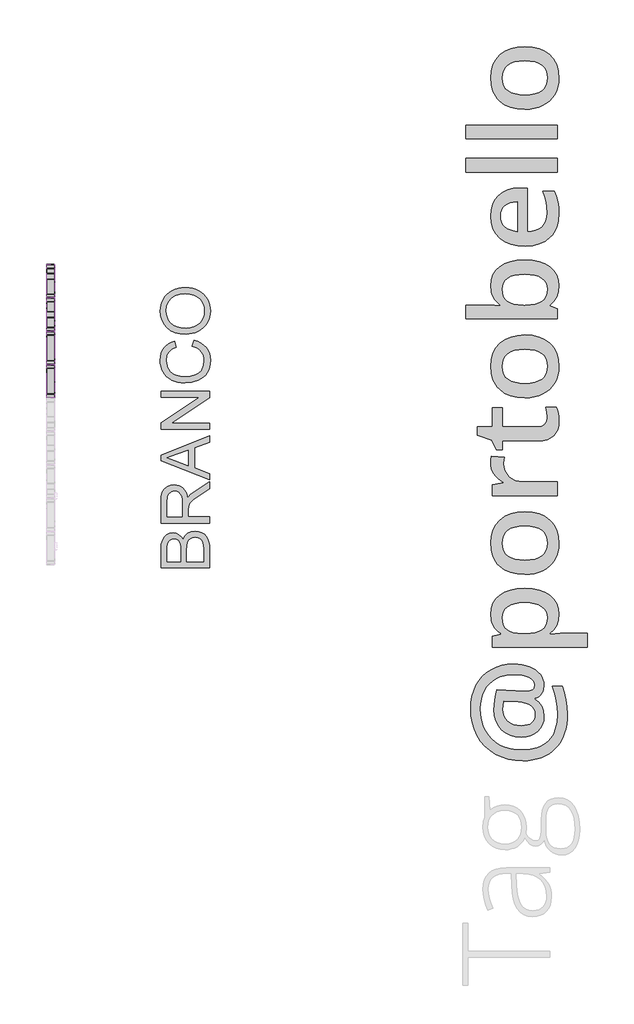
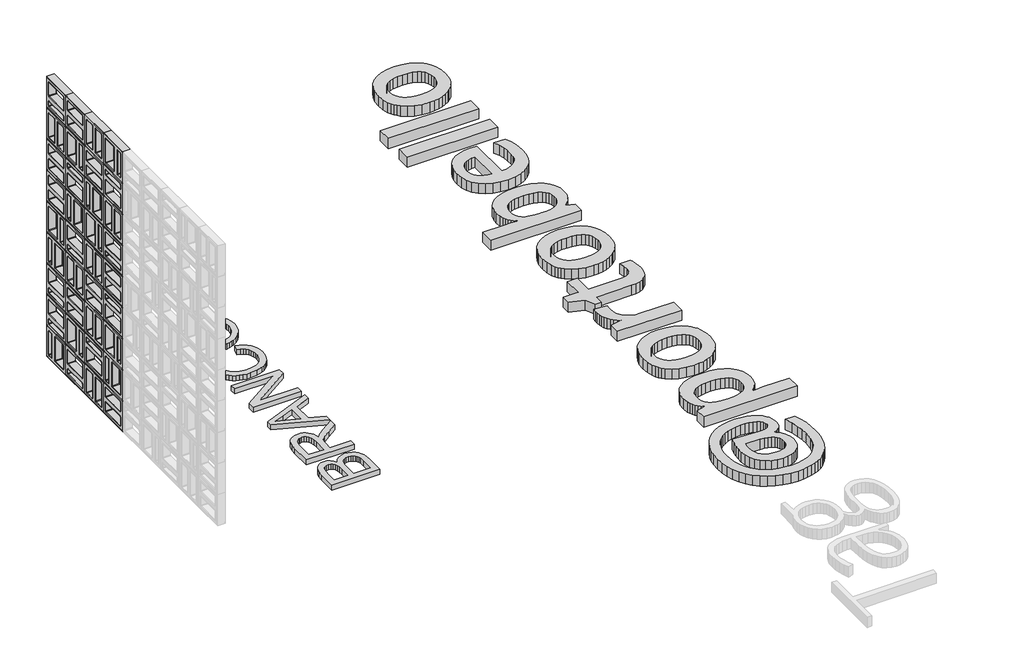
# One storey, part 6 of 8: 38 proxies.
"""IFC4 building model written with IfcOpenShell, lengths in millimetres."""

from ifc_helpers import new_model, si_unit, origin, origin_with_axes, place, context, project, spatial, polyline, outline, extrude, transform, mapped, element, save
from components import plate_08ec880d, generic_models_842a660e, generic_models_726e0611, generic_models_d4af8894, generic_models_55a6a26f, sim_branco_8a5b93f5, sim_branco_d7bac734

model = new_model("IFC4")

# Units and contexts
model_context = context("Model", 3, world=origin())
ifc_project = project(units=[si_unit("LENGTHUNIT", "METRE", prefix="MILLI")], contexts=[model_context])

# Site, building, storey
site = spatial("IfcSite", under=ifc_project)
building = spatial("IfcBuilding", under=site)
storey = spatial("IfcBuildingStorey", under=building, Name="PORTOBELLO - SHOWROOM", Elevation=0.0)

# Proxies
placement = place(None, origin())
plate_shape = plate_08ec880d(model_context)
element("IfcBuildingElementProxy", 1, Name="PORTOBELLO - ELEMENTO ASSIM BRANCO 30X30 (COBOGO) : ASSIM BRANCO", ObjectType="PORTOBELLO - ELEMENTO ASSIM BRANCO 30X30 (COBOGO) : ASSIM BRANCO", at=placement, inside=storey, context=model_context, shape_type="MappedRepresentation", body=[
    mapped(plate_shape, transform((152562.9354422, 5942.9733076, 0.0), x_axis=(0.0, 1.0, 0.0), y_axis=(-1.0, 0.0, 0.0), z_axis=(0.0, 0.0, 1.0))),
])
element("IfcBuildingElementProxy", 2, Name="PORTOBELLO - ELEMENTO ASSIM BRANCO 30X30 (COBOGO) : ASSIM BRANCO", ObjectType="PORTOBELLO - ELEMENTO ASSIM BRANCO 30X30 (COBOGO) : ASSIM BRANCO", at=placement, inside=storey, context=model_context, shape_type="MappedRepresentation", body=[
    mapped(plate_shape, transform((152562.9354422, 5018.9733076, 308.0), x_axis=(0.0, 1.0, 0.0), y_axis=(-1.0, 0.0, 0.0), z_axis=(0.0, 0.0, 1.0))),
])
element("IfcBuildingElementProxy", 3, Name="PORTOBELLO - ELEMENTO ASSIM BRANCO 30X30 (COBOGO) : ASSIM BRANCO", ObjectType="PORTOBELLO - ELEMENTO ASSIM BRANCO 30X30 (COBOGO) : ASSIM BRANCO", at=placement, inside=storey, context=model_context, shape_type="MappedRepresentation", body=[
    mapped(plate_shape, transform((152562.9354422, 5942.9733076, 924.0), x_axis=(0.0, 1.0, 0.0), y_axis=(-1.0, 0.0, 0.0), z_axis=(0.0, 0.0, 1.0))),
])
element("IfcBuildingElementProxy", 4, Name="PORTOBELLO - ELEMENTO ASSIM BRANCO 30X30 (COBOGO) : ASSIM BRANCO", ObjectType="PORTOBELLO - ELEMENTO ASSIM BRANCO 30X30 (COBOGO) : ASSIM BRANCO", at=placement, inside=storey, context=model_context, shape_type="MappedRepresentation", body=[
    mapped(plate_shape, transform((152562.9354422, 5634.9733076, 1540.0), x_axis=(0.0, 1.0, 0.0), y_axis=(-1.0, 0.0, 0.0), z_axis=(0.0, 0.0, 1.0))),
])
element("IfcBuildingElementProxy", 5, Name="PORTOBELLO - ELEMENTO ASSIM BRANCO 30X30 (COBOGO) : ASSIM BRANCO", ObjectType="PORTOBELLO - ELEMENTO ASSIM BRANCO 30X30 (COBOGO) : ASSIM BRANCO", at=placement, inside=storey, context=model_context, shape_type="MappedRepresentation", body=[
    mapped(plate_shape, transform((152562.9354422, 5326.9733076, 1848.0), x_axis=(0.0, 1.0, 0.0), y_axis=(-1.0, 0.0, 0.0), z_axis=(0.0, 0.0, 1.0))),
])
generic_models_shape = generic_models_842a660e(model_context)
element("IfcBuildingElementProxy", 6, Name="PORTOBELLO - ELEMENTO ASSIM BRANCO 30X30 (COBOGO) : ASSIM BRANCO", ObjectType="PORTOBELLO - ELEMENTO ASSIM BRANCO 30X30 (COBOGO) : ASSIM BRANCO", at=placement, inside=storey, context=model_context, shape_type="MappedRepresentation", body=[
    mapped(generic_models_shape, transform((152562.9354422, 5326.9733076, 1540.0), x_axis=(0.0, -1.0, 0.0), y_axis=(1.0, 0.0, 0.0), z_axis=(0.0, 0.0, 1.0))),
])
generic_models_2_shape = generic_models_726e0611(model_context)
element("IfcBuildingElementProxy", 7, Name="PORTOBELLO - ELEMENTO ASSIM BRANCO 30X30 (COBOGO) : ASSIM BRANCO", ObjectType="PORTOBELLO - ELEMENTO ASSIM BRANCO 30X30 (COBOGO) : ASSIM BRANCO", at=placement, inside=storey, context=model_context, shape_type="MappedRepresentation", body=[
    mapped(generic_models_2_shape, transform((152562.9354422, 5326.9733076, 308.0), x_axis=(0.0, 1.0, 0.0), y_axis=(-1.0, 0.0, 0.0), z_axis=(0.0, 0.0, 1.0))),
])
element("IfcBuildingElementProxy", 8, Name="PORTOBELLO - ELEMENTO ASSIM BRANCO 30X30 (COBOGO) : ASSIM BRANCO", ObjectType="PORTOBELLO - ELEMENTO ASSIM BRANCO 30X30 (COBOGO) : ASSIM BRANCO", at=placement, inside=storey, context=model_context, shape_type="MappedRepresentation", body=[
    mapped(generic_models_2_shape, transform((152562.9354422, 5018.9733076, 924.0), x_axis=(0.0, 1.0, 0.0), y_axis=(-1.0, 0.0, 0.0), z_axis=(0.0, 0.0, 1.0))),
])
element("IfcBuildingElementProxy", 9, Name="PORTOBELLO - ELEMENTO ASSIM BRANCO 30X30 (COBOGO) : ASSIM BRANCO", ObjectType="PORTOBELLO - ELEMENTO ASSIM BRANCO 30X30 (COBOGO) : ASSIM BRANCO", at=placement, inside=storey, context=model_context, shape_type="MappedRepresentation", body=[
    mapped(generic_models_2_shape, transform((152562.9354422, 5634.9733076, 1848.0), x_axis=(0.0, 1.0, 0.0), y_axis=(-1.0, 0.0, 0.0), z_axis=(0.0, 0.0, 1.0))),
])
element("IfcBuildingElementProxy", 10, Name="PORTOBELLO - ELEMENTO ASSIM BRANCO 30X30 (COBOGO) : ASSIM BRANCO", ObjectType="PORTOBELLO - ELEMENTO ASSIM BRANCO 30X30 (COBOGO) : ASSIM BRANCO", at=placement, inside=storey, context=model_context, shape_type="MappedRepresentation", body=[
    mapped(generic_models_2_shape, transform((152562.9354422, 5018.9733076, 2156.0), x_axis=(0.0, 1.0, 0.0), y_axis=(-1.0, 0.0, 0.0), z_axis=(0.0, 0.0, 1.0))),
])
generic_models_3_shape = generic_models_d4af8894(model_context)
element("IfcBuildingElementProxy", 11, Name="PORTOBELLO - ELEMENTO ASSIM BRANCO 30X30 (COBOGO) : ASSIM BRANCO", ObjectType="PORTOBELLO - ELEMENTO ASSIM BRANCO 30X30 (COBOGO) : ASSIM BRANCO", at=placement, inside=storey, context=model_context, shape_type="MappedRepresentation", body=[
    mapped(generic_models_3_shape, transform((152562.9354422, 5634.9733076, 0.0), x_axis=(0.0, 1.0, 0.0), y_axis=(-1.0, 0.0, 0.0), z_axis=(0.0, 0.0, 1.0))),
])
element("IfcBuildingElementProxy", 12, Name="PORTOBELLO - ELEMENTO ASSIM BRANCO 30X30 (COBOGO) : ASSIM BRANCO", ObjectType="PORTOBELLO - ELEMENTO ASSIM BRANCO 30X30 (COBOGO) : ASSIM BRANCO", at=placement, inside=storey, context=model_context, shape_type="MappedRepresentation", body=[
    mapped(generic_models_3_shape, transform((152562.9354422, 5942.9733076, 308.0), x_axis=(0.0, 1.0, 0.0), y_axis=(-1.0, 0.0, 0.0), z_axis=(0.0, 0.0, 1.0))),
])
element("IfcBuildingElementProxy", 13, Name="PORTOBELLO - ELEMENTO ASSIM BRANCO 30X30 (COBOGO) : ASSIM BRANCO", ObjectType="PORTOBELLO - ELEMENTO ASSIM BRANCO 30X30 (COBOGO) : ASSIM BRANCO", at=placement, inside=storey, context=model_context, shape_type="MappedRepresentation", body=[
    mapped(generic_models_3_shape, transform((152562.9354422, 5942.9733076, 616.0), x_axis=(0.0, 1.0, 0.0), y_axis=(-1.0, 0.0, 0.0), z_axis=(0.0, 0.0, 1.0))),
])
element("IfcBuildingElementProxy", 14, Name="PORTOBELLO - ELEMENTO ASSIM BRANCO 30X30 (COBOGO) : ASSIM BRANCO", ObjectType="PORTOBELLO - ELEMENTO ASSIM BRANCO 30X30 (COBOGO) : ASSIM BRANCO", at=placement, inside=storey, context=model_context, shape_type="MappedRepresentation", body=[
    mapped(generic_models_3_shape, transform((152562.9354422, 5634.9733076, 1232.0), x_axis=(0.0, 1.0, 0.0), y_axis=(-1.0, 0.0, 0.0), z_axis=(0.0, 0.0, 1.0))),
])
element("IfcBuildingElementProxy", 15, Name="PORTOBELLO - ELEMENTO ASSIM BRANCO 30X30 (COBOGO) : ASSIM BRANCO", ObjectType="PORTOBELLO - ELEMENTO ASSIM BRANCO 30X30 (COBOGO) : ASSIM BRANCO", at=placement, inside=storey, context=model_context, shape_type="MappedRepresentation", body=[
    mapped(generic_models_3_shape, transform((152562.9354422, 5018.9733076, 1540.0), x_axis=(0.0, 1.0, 0.0), y_axis=(-1.0, 0.0, 0.0), z_axis=(0.0, 0.0, 1.0))),
])
element("IfcBuildingElementProxy", 16, Name="PORTOBELLO - ELEMENTO ASSIM BRANCO 30X30 (COBOGO) : ASSIM BRANCO", ObjectType="PORTOBELLO - ELEMENTO ASSIM BRANCO 30X30 (COBOGO) : ASSIM BRANCO", at=placement, inside=storey, context=model_context, shape_type="MappedRepresentation", body=[
    mapped(generic_models_3_shape, transform((152562.9354422, 5942.9733076, 2464.0), x_axis=(0.0, 1.0, 0.0), y_axis=(-1.0, 0.0, 0.0), z_axis=(0.0, 0.0, 1.0))),
])
generic_models_4_shape = generic_models_55a6a26f(model_context)
element("IfcBuildingElementProxy", 17, Name="PORTOBELLO - ELEMENTO ASSIM BRANCO 30X30 (COBOGO) : ASSIM BRANCO", ObjectType="PORTOBELLO - ELEMENTO ASSIM BRANCO 30X30 (COBOGO) : ASSIM BRANCO", at=placement, inside=storey, context=model_context, shape_type="MappedRepresentation", body=[
    mapped(generic_models_4_shape, transform((152562.9354422, 5634.9733076, 308.0), x_axis=(0.0, 1.0, 0.0), y_axis=(-1.0, 0.0, 0.0), z_axis=(0.0, 0.0, 1.0))),
])
element("IfcBuildingElementProxy", 18, Name="PORTOBELLO - ELEMENTO ASSIM BRANCO 30X30 (COBOGO) : ASSIM BRANCO", ObjectType="PORTOBELLO - ELEMENTO ASSIM BRANCO 30X30 (COBOGO) : ASSIM BRANCO", at=placement, inside=storey, context=model_context, shape_type="MappedRepresentation", body=[
    mapped(generic_models_4_shape, transform((152562.9354422, 5018.9733076, 616.0), x_axis=(0.0, 1.0, 0.0), y_axis=(-1.0, 0.0, 0.0), z_axis=(0.0, 0.0, 1.0))),
])
element("IfcBuildingElementProxy", 19, Name="PORTOBELLO - ELEMENTO ASSIM BRANCO 30X30 (COBOGO) : ASSIM BRANCO", ObjectType="PORTOBELLO - ELEMENTO ASSIM BRANCO 30X30 (COBOGO) : ASSIM BRANCO", at=placement, inside=storey, context=model_context, shape_type="MappedRepresentation", body=[
    mapped(generic_models_4_shape, transform((152562.9354422, 5942.9733076, 1232.0), x_axis=(0.0, 1.0, 0.0), y_axis=(-1.0, 0.0, 0.0), z_axis=(0.0, 0.0, 1.0))),
])
element("IfcBuildingElementProxy", 20, Name="PORTOBELLO - ELEMENTO ASSIM BRANCO 30X30 (COBOGO) : ASSIM BRANCO", ObjectType="PORTOBELLO - ELEMENTO ASSIM BRANCO 30X30 (COBOGO) : ASSIM BRANCO", at=placement, inside=storey, context=model_context, shape_type="MappedRepresentation", body=[
    mapped(generic_models_4_shape, transform((152562.9354422, 5634.9733076, 2156.0), x_axis=(0.0, 1.0, 0.0), y_axis=(-1.0, 0.0, 0.0), z_axis=(0.0, 0.0, 1.0))),
])
element("IfcBuildingElementProxy", 21, Name="PORTOBELLO - ELEMENTO ASSIM BRANCO 30X30 (COBOGO) : ASSIM BRANCO", ObjectType="PORTOBELLO - ELEMENTO ASSIM BRANCO 30X30 (COBOGO) : ASSIM BRANCO", at=placement, inside=storey, context=model_context, shape_type="MappedRepresentation", body=[
    mapped(generic_models_4_shape, transform((152562.9354422, 5018.9733076, 2464.0), x_axis=(0.0, 1.0, 0.0), y_axis=(-1.0, 0.0, 0.0), z_axis=(0.0, 0.0, 1.0))),
])
element("IfcBuildingElementProxy", 22, Name="450mm Arial", ObjectType="450mm Arial", at=placement, inside=storey, context=model_context, shape_type="SweptSolid", body=[
    extrude(outline(polyline([(154031.8262371, 3297.1467067), (153582.1700943, 3297.1467067), (153582.1700943, 3468.7318022), (153585.4771967, 3515.9231924), (153595.3985038, 3552.7678806), (153612.1810191, 3581.0086137), (153636.0717462, 3602.3881386), (153664.1752551, 3615.8498291), (153693.596116, 3620.3370593), (153720.6704437, 3616.5633948), (153746.1255263, 3605.2424012), (153768.3970082, 3586.2917441), (153785.920534, 3559.6290889), (153802.5521028, 3591.4788175), (153827.8562388, 3615.0127617), (153860.1588071, 3629.5448008), (153897.7856731, 3634.3888138), (153929.1413947, 3631.0817114), (153958.2191952, 3621.1604043), (153982.9469897, 3606.3539169), (154001.2526932, 3588.3912738), (154014.5085476, 3566.3942402), (154024.0867942, 3539.4845815), (154029.8913764, 3506.7840631), (154031.8262371, 3467.4144502), (154031.8262371, 3297.1467067)]), holes=[polyline([(153764.8429023, 3353.3537245), (153764.8429023, 3455.9973997), (153763.6353297, 3491.8952412), (153760.0126117, 3515.9369148), (153751.6831049, 3536.9184896), (153739.2094284, 3551.9994253), (153722.7836959, 3561.0973874), (153702.5980212, 3564.1300415), (153683.0024105, 3561.3032237), (153665.9317244, 3552.8227703), (153652.607258, 3539.072909), (153644.2503064, 3520.4378674), (153639.8454107, 3491.8403515), (153638.3771122, 3448.2030672), (153638.3771122, 3353.3537245), (153764.8429023, 3353.3537245)]), polyline([(153975.6192193, 3353.3537245), (153975.6192193, 3468.6220229), (153973.4236327, 3510.3381689), (153968.5521748, 3529.7004986), (153961.1832372, 3545.6322241), (153950.6306989, 3558.5861852), (153936.2084392, 3569.0152217), (153918.5614116, 3575.8901524), (153898.3345697, 3578.1817959), (153874.8417927, 3575.4922023), (153854.6423957, 3567.4234214), (153838.8478944, 3553.3304997), (153828.5698044, 3532.5684836), (153822.9298912, 3503.1613451), (153821.0499202, 3463.1330563), (153821.0499202, 3353.3537245), (153975.6192193, 3353.3537245)])]), origin_with_axes(), (0.0, 0.0, 1.0), 50.0),
    extrude(outline(polyline([(154031.8262371, 3711.6734633), (153582.1700943, 3711.6734633), (153582.1700943, 3905.4339839), (153585.2027484, 3957.5105544), (153594.3007105, 3995.3981462), (153611.0969482, 4023.0899827), (153637.2244292, 4044.5792868), (153669.6230545, 4058.3703154), (153705.2327252, 4062.9673249), (153728.3275521, 4061.0633396), (153749.5286856, 4055.3513838), (153768.8361255, 4045.8314574), (153786.249872, 4032.5035604), (153801.2141672, 4015.1961626), (153813.1732531, 3993.7377338), (153822.1271299, 3968.1282741), (153828.0757974, 3938.3677834), (153852.1174711, 3970.3135689), (153909.9711789, 4015.8719916), (154031.8262371, 4090.8512752), (154031.8262371, 4025.5325728), (153938.6235845, 3967.020189), (153876.9276, 3924.7551463), (153858.9375121, 3909.0429794), (153847.7811875, 3895.059837), (153837.0777026, 3868.3285697), (153835.1016747, 3835.7241082), (153835.1016747, 3767.8804812), (154031.8262371, 3767.8804812), (154031.8262371, 3711.6734633)]), holes=[polyline([(153778.8946568, 3767.8804812), (153778.8946568, 3893.6875954), (153776.9049064, 3929.8187179), (153770.9356553, 3957.8536148), (153760.5889532, 3978.9586913), (153745.4668503, 3994.3003529), (153727.1748691, 4003.6453185), (153707.3185325, 4006.7603071), (153692.9443013, 4005.2748555), (153679.9011444, 4000.8185007), (153657.8080539, 3982.9930817), (153649.3070169, 3969.3838752), (153643.2348476, 3952.3234809), (153638.3771122, 3907.8491292), (153638.3771122, 3767.8804812), (153778.8946568, 3767.8804812)])]), origin_with_axes(), (0.0, 0.0, 1.0), 50.0),
    extrude(outline(polyline([(154031.8262371, 4108.9648649), (153582.1700943, 4288.4540723), (153582.1700943, 4336.317861), (154031.8262371, 4515.8070684), (154031.8262371, 4456.4164499), (153891.3086925, 4404.9299433), (153891.3086925, 4219.7322106), (154031.8262371, 4168.3554834), (154031.8262371, 4108.9648649)]), holes=[polyline([(153835.1016747, 4240.370725), (153835.1016747, 4384.4012083), (153724.5538876, 4343.8926348), (153638.3771122, 4312.3859666), (153714.8933064, 4284.392237), (153835.1016747, 4240.370725)])]), origin_with_axes(), (0.0, 0.0, 1.0), 50.0),
    extrude(outline(polyline([(154031.8262371, 4575.8563628), (153582.1700943, 4575.8563628), (153582.1700943, 4636.0154366), (153938.4040258, 4870.9432065), (153582.1700943, 4870.9432065), (153582.1700943, 4927.1502244), (154031.8262371, 4927.1502244), (154031.8262371, 4866.9911506), (153675.4825263, 4632.0633807), (154031.8262371, 4632.0633807), (154031.8262371, 4575.8563628)])), origin_with_axes(), (0.0, 0.0, 1.0), 50.0),
    extrude(outline(polyline([(153871.9875301, 5341.6769811), (153886.4784019, 5397.8839989), (153921.4328273, 5386.7619804), (153951.9754957, 5371.9486318), (153978.1064073, 5353.4439532), (153999.8255619, 5331.2479445), (154016.8996786, 5305.8614741), (154029.0954763, 5277.78541), (154036.4129548, 5247.0197523), (154038.8521144, 5213.5645009), (154037.0064494, 5179.2893352), (154031.4694543, 5148.3693003), (154022.2411292, 5120.8043962), (154009.3214741, 5096.5946229), (153992.9026028, 5075.4072119), (153973.1766292, 5056.9093945), (153950.1435531, 5041.1011707), (153923.8033747, 5027.9825406), (153865.757553, 5010.3217906), (153803.5950064, 5004.4348739), (153769.6937766, 5006.0987169), (153738.0293006, 5011.0902459), (153708.6015784, 5019.4094609), (153681.4106102, 5031.0563619), (153656.905805, 5045.7702229), (153635.536572, 5063.2903182), (153617.3029111, 5083.6166476), (153602.2048224, 5106.7492111), (153590.3658076, 5131.9024005), (153581.9093684, 5158.2906074), (153576.8355049, 5185.9138317), (153575.1442171, 5214.7720736), (153577.3329425, 5246.9202647), (153583.8991188, 5276.3994459), (153594.8427459, 5303.2096171), (153610.1638239, 5327.3507783), (153629.4575415, 5348.4249794), (153652.3190873, 5366.0342703), (153678.7484614, 5380.1786511), (153708.7456638, 5390.8581217), (153722.1387423, 5334.6511038), (153681.1498843, 5315.1652724), (153665.4823153, 5302.7464855), (153653.032653, 5288.5437845), (153643.5470326, 5272.4748348), (153636.7715894, 5254.457302), (153631.3512349, 5212.5764869), (153632.8538395, 5187.3615467), (153637.3616534, 5164.3010258), (153644.8746764, 5143.3949243), (153655.3929086, 5124.6432422), (153668.4429267, 5108.2826912), (153683.5513072, 5094.5499829), (153700.7180502, 5083.4451174), (153719.9431557, 5074.9680946), (153761.0829602, 5064.2234425), (153803.4852271, 5060.6418918), (153855.410851, 5064.8821185), (153900.3105977, 5077.6027985), (153919.6969416, 5087.2633797), (153936.4691651, 5099.2842166), (153950.6272683, 5113.665309), (153962.1712511, 5130.4066571), (153977.5266352, 5167.7179075), (153982.6450965, 5207.965755), (153980.9023496, 5232.4019481), (153975.674109, 5254.8826969), (153966.9603745, 5275.4080013), (153954.7611463, 5293.9778614), (153939.1313139, 5310.1531598), (153920.1257671, 5323.4947792), (153897.7445058, 5334.0027196), (153871.9875301, 5341.6769811)])), origin_with_axes(), (0.0, 0.0, 1.0), 50.0),
    extrude(outline(polyline([(153812.9262496, 5454.0910168), (153760.1841419, 5457.8372365), (153713.4936199, 5469.0758955), (153672.8546835, 5487.806994), (153638.2673328, 5514.0305319), (153610.6509697, 5546.1752925), (153590.924996, 5582.6700591), (153579.0894118, 5623.5148317), (153575.1442171, 5668.7096103), (153576.9967433, 5698.9606774), (153582.554322, 5727.6885563), (153591.8169531, 5754.8932469), (153604.7846367, 5780.5747494), (153621.0662838, 5804.0126367), (153640.2708056, 5824.4864821), (153662.3982022, 5841.9962855), (153687.4484735, 5856.5420469), (153714.8521391, 5867.9728198), (153744.039719, 5876.1376576), (153775.0112129, 5881.0365603), (153807.7666211, 5882.6695279), (153840.9542853, 5880.9507952), (153872.3443129, 5875.7945972), (153901.9367041, 5867.2009339), (153929.7314586, 5855.1698053), (153954.9944273, 5839.9859515), (153976.9914609, 5821.9341126), (153995.7225594, 5801.0142887), (154011.1877228, 5777.2264797), (154023.2908941, 5751.5072407), (154031.9360165, 5724.7931264), (154037.1230899, 5697.084137), (154038.8521144, 5668.3802723), (154036.9412679, 5637.6008922), (154031.2087284, 5608.4956469), (154021.6544959, 5581.0645363), (154008.2785705, 5555.3075606), (153991.5989733, 5531.8971181), (153972.1337255, 5511.5056073), (153949.8828272, 5494.133028), (153924.8462784, 5479.7793804), (153898.029246, 5468.5407213), (153870.4368971, 5460.5131077), (153842.0692316, 5455.6965395), (153812.9262496, 5454.0910168)]), holes=[polyline([(153813.4751463, 5510.2980346), (153850.7383682, 5513.1076994), (153883.8162531, 5521.5366937), (153912.708801, 5535.5850176), (153937.4160118, 5555.252671), (153957.2037364, 5579.160551), (153971.3378253, 5605.929555), (153979.8182787, 5635.5596827), (153982.6450965, 5668.0509343), (153979.7908339, 5701.0979438), (153971.228046, 5731.0779932), (153956.9567329, 5757.9910825), (153936.9768945, 5781.8372117), (153911.7482318, 5801.3607797), (153881.7304458, 5815.3061854), (153846.9235364, 5823.6734289), (153807.3275037, 5826.46251), (153757.5700216, 5821.6871091), (153714.5639684, 5807.3609063), (153679.393415, 5783.8544069), (153653.1424323, 5751.5381161), (153636.7990343, 5712.5527309), (153631.3512349, 5669.0389483), (153633.9756471, 5637.6763655), (153641.8488835, 5608.5779814), (153654.9709443, 5581.7437959), (153673.3418293, 5557.1738093), (153697.8466345, 5536.6656579), (153729.3704558, 5522.0169783), (153767.913293, 5513.2277705), (153813.4751463, 5510.2980346)])]), origin_with_axes(), (0.0, 0.0, 1.0), 50.0),
])
element("IfcBuildingElementProxy", 23, Name="80mm OpenSans Bold", ObjectType="80mm OpenSans Bold", at=placement, inside=storey, context=model_context, shape_type="SweptSolid", body=[
    extrude(outline(polyline([(156840.3690032, 2410.0949726), (156878.4746179, 2408.5476127), (156914.9126894, 2403.9055331), (156949.6832178, 2396.1687338), (156982.786203, 2385.3372147), (157013.2676901, 2371.6964112), (157040.1737244, 2355.5317585), (157063.5043057, 2336.8432568), (157083.2594342, 2315.630906), (157098.9809109, 2292.2853017), (157110.2105372, 2267.1970397), (157116.9483129, 2240.36612), (157119.1942381, 2211.7925426), (157113.4855318, 2171.1705903), (157106.3496489, 2153.0229133), (157096.3594129, 2136.3174359), (157083.9354652, 2121.6400515), (157069.4984474, 2109.5766537), (157053.0483594, 2100.1272424), (157034.5852013, 2093.2918178), (157034.5852013, 2086.5615535), (157071.6016549, 2056.3955474), (157098.0419789, 2019.7396437), (157113.9061733, 1977.3750337), (157119.1942381, 1930.0829087), (157115.6413196, 1887.4178404), (157104.982564, 1849.5601038), (157087.2179713, 1816.5096988), (157062.3475415, 1788.2666254), (157031.4078556, 1765.6571438), (156995.4354943, 1749.5075141), (156954.4304578, 1739.8177363), (156908.3927459, 1736.5878103), (156855.2491969, 1740.8693401), (156807.348644, 1753.7139293), (156764.6910872, 1775.121578), (156727.2765265, 1805.0922861), (156696.8325966, 1842.2739918), (156675.0869324, 1885.3146328), (156662.0395339, 1934.2142093), (156657.690401, 1988.9727212), (156659.5231962, 2033.2903098), (156665.0215818, 2082.1147717), (156673.7649162, 2130.3383172), (156685.3325579, 2172.8531563), (156936.515636, 2160.5944607), (156949.2550648, 2160.5944607), (156987.1128014, 2164.1999594), (157014.1540419, 2175.0164556), (157023.618476, 2183.1288277), (157030.3787862, 2193.0439492), (157035.7870343, 2218.2824403), (157032.3242532, 2239.0365924), (157021.93591, 2257.5523306), (157004.6220046, 2273.8296551), (156980.3825371, 2287.8685658), (156950.7798903, 2299.1733066), (156917.3764469, 2307.2481214), (156880.1722069, 2312.0930103), (156839.1671703, 2313.7079733), (156794.0759019, 2311.2892846), (156751.8239636, 2304.0332184), (156712.4113557, 2291.9397747), (156675.838078, 2275.0089536), (156642.6975355, 2253.6163278), (156613.5831333, 2228.1374702), (156588.4948713, 2198.5723806), (156567.4327496, 2164.9210591), (156550.7648294, 2127.9196285), (156538.8591721, 2088.3042112), (156531.7157778, 2046.0748073), (156529.3346463, 2001.2314169), (156532.3242057, 1944.2570256), (156541.2928838, 1891.1134766), (156556.2406806, 1841.8007701), (156577.1675961, 1796.3189059), (156603.6454774, 1755.3288922), (156635.2461715, 1719.4917372), (156671.9696783, 1688.8074407), (156713.8159979, 1663.2760029), (156760.0039389, 1643.1903704), (156809.7523099, 1628.84349), (156863.0611108, 1620.2353618), (156919.9303418, 1617.3659857), (156994.1059667, 1622.7216536), (157059.1927302, 1638.7886573), (157088.3277889, 1650.8389101), (157115.1906323, 1665.5669968), (157139.7812603, 1682.9729175), (157162.099673, 1703.0566722), (157181.958084, 1725.6417415), (157199.1687068, 1750.5516064), (157213.7315415, 1777.7862669), (157225.6465881, 1807.3457228), (157241.5333168, 1873.4390214), (157246.8288931, 1948.8315021), (157243.7341734, 2010.545622), (157234.4500141, 2073.581758), (157218.9764154, 2137.9399103), (157197.3133772, 2203.6200788), (157287.4508454, 2203.6200788), (157308.0622798, 2144.3997622), (157322.784733, 2082.5955049), (157331.6182048, 2018.2073068), (157334.5626955, 1951.2351679), (157332.8669843, 1901.6201253), (157327.779851, 1854.8106113), (157319.3012954, 1810.8066261), (157307.4313175, 1769.6081695), (157292.1699175, 1731.2152416), (157273.5170951, 1695.6278425), (157251.4728506, 1662.845972), (157226.0371838, 1632.8696303), (157197.5668889, 1606.0819014), (157166.41876, 1582.8658698), (157132.5927972, 1563.2215353), (157096.0890005, 1547.148898), (157056.9073698, 1534.6479579), (157015.0479051, 1525.718715), (156970.5106065, 1520.3611692), (156923.295474, 1518.5753206), (156854.227639, 1522.4362088), (156789.0807838, 1534.0188735), (156727.8549086, 1553.3233146), (156670.5500132, 1580.3495321), (156618.4505565, 1614.2261973), (156572.8409976, 1654.0819811), (156533.7213365, 1699.9168837), (156501.091573, 1751.730905), (156475.3798602, 1808.3522579), (156457.014351, 1868.6091554), (156445.9950455, 1932.5015974), (156442.3219437, 2000.029584), (156445.3866176, 2058.250877), (156454.5806394, 2113.2121982), (156469.904009, 2164.9135477), (156491.3567264, 2213.3549254), (156518.4730814, 2257.5373077), (156550.7873638, 2296.4616711), (156588.2995734, 2330.1280154), (156631.0097104, 2358.5363408), (156678.0764918, 2381.0932422), (156728.6586343, 2397.2053147), (156782.7561381, 2406.8725581), (156840.3690032, 2410.0949726)]), holes=[polyline([(156910.3156785, 1841.8683732), (156939.7230275, 1843.457046), (156965.2093967, 1848.2230647), (156986.7747859, 1856.1664291), (157004.4191953, 1867.2871392), (157018.1426249, 1881.5851951), (157027.9450745, 1899.0605967), (157033.8265443, 1919.7133441), (157035.7870343, 1943.5434373), (157033.3232768, 1968.8269971), (157025.9320044, 1991.0759288), (157013.6132171, 2010.2902325), (156996.3669148, 2026.469908), (156974.1930977, 2039.6149555), (156947.0917656, 2049.7253748), (156915.0629185, 2056.8011661), (156878.1065566, 2060.8423292), (156749.5104353, 2067.5725935), (156742.6599877, 2031.2772396), (156740.3765052, 1992.57822), (156743.2383698, 1958.9644558), (156751.8239636, 1929.2716715), (156766.1332867, 1903.499867), (156786.166339, 1881.6490425), (156811.0968604, 1864.2449996), (156840.0985908, 1851.8135405), (156873.1715302, 1844.354665), (156910.3156785, 1841.8683732)])]), origin_with_axes(), (0.0, 0.0, 1.0), 100.0),
    extrude(outline(polyline([(157257.6453893, 2868.7144107), (157252.4474619, 2815.1577317), (157236.85368, 2767.9407213), (157210.8640433, 2727.0633795), (157174.478552, 2692.5257063), (157174.478552, 2684.8339756), (157268.4618855, 2692.5257063), (157519.1642303, 2692.5257063), (157519.1642303, 2563.6892184), (156642.3069398, 2563.6892184), (156642.3069398, 2668.0083149), (156719.4646126, 2686.0358086), (156719.4646126, 2692.5257063), (156697.7752843, 2708.3560991), (156678.9778664, 2726.0418215), (156663.072359, 2745.5828735), (156650.0587621, 2766.979255), (156639.9370755, 2790.230966), (156632.7072994, 2815.3380067), (156626.9234786, 2871.1180766), (156632.0838486, 2923.92361), (156647.5649588, 2970.5697498), (156673.366809, 3011.0564959), (156709.4893994, 3045.3838484), (156754.9261948, 3072.7255471), (156808.6706602, 3092.2553318), (156870.7227956, 3103.9732027), (156941.082601, 3107.8791597), (157011.6151699, 3103.9055996), (157073.9452291, 3091.9849194), (157128.0727788, 3072.1171192), (157173.9978188, 3044.3021988), (157210.5936309, 3009.4866017), (157236.7334967, 2968.6167713), (157252.4174161, 2921.6927077), (157257.6453893, 2868.7144107)]), holes=[polyline([(156734.6077072, 2837.2263885), (156737.4019687, 2802.140379), (156745.7847533, 2772.1170907), (156759.7560608, 2747.1565234), (156779.3158914, 2727.2586773), (156805.0050699, 2712.0630025), (156837.364421, 2701.208949), (156876.3939447, 2694.696517), (156922.093641, 2692.5257063), (156941.082601, 2692.5257063), (156992.4309121, 2694.6739826), (157036.1475841, 2701.1188116), (157072.2326172, 2711.8601932), (157100.6860113, 2726.8981275), (157122.2438892, 2746.8185079), (157137.6423733, 2772.2072281), (157146.8814638, 2803.0642881), (157149.9611606, 2839.3896878), (157146.5509597, 2870.3143508), (157136.3203571, 2897.4682631), (157119.2693527, 2920.8514246), (157095.3979465, 2940.4638354), (157065.2319405, 2955.9749914), (157029.2971365, 2967.0543885), (156987.5935346, 2973.7020268), (156940.1211347, 2975.9179062), (156892.4909942, 2973.7170497), (156851.0352703, 2967.1144802), (156815.753963, 2956.1101976), (156786.6470722, 2940.704202), (156763.87985, 2921.0316996), (156747.6175485, 2897.2278965), (156737.8601675, 2869.2927928), (156734.6077072, 2837.2263885)])]), origin_with_axes(), (0.0, 0.0, 1.0), 100.0),
    extrude(outline(polyline([(156941.082601, 3815.9991097), (157011.6151699, 3811.1917781), (157073.9452291, 3796.7697832), (157128.0727788, 3772.733125), (157173.9978188, 3739.0818036), (157193.6027181, 3718.9097893), (157210.5936309, 3696.8523997), (157224.9705571, 3672.9096347), (157236.7334967, 3647.0814944), (157252.4174161, 3589.7690875), (157257.6453893, 3524.9151791), (157255.234212, 3483.2641574), (157248.0006802, 3444.1219618), (157235.9447938, 3407.4885925), (157219.0665529, 3373.3640493), (157197.68895, 3342.3868061), (157172.1349778, 3315.1953365), (157142.4046362, 3291.7896406), (157108.4979253, 3272.1697183), (157071.0382958, 3256.6585624), (157030.6491986, 3245.5791652), (156987.3306336, 3238.931527), (156941.082601, 3236.7156475), (156871.1133913, 3241.4854219), (156809.2715767, 3255.794745), (156755.5571571, 3279.6436167), (156709.9701326, 3313.0320373), (156690.506073, 3333.0895018), (156673.6372214, 3355.1037005), (156659.3635778, 3379.0746335), (156647.6851421, 3405.0023006), (156632.1138944, 3462.7278375), (156626.9234786, 3528.2803113), (156632.2415892, 3591.1737297), (156648.1959211, 3647.1716318), (156674.7864742, 3696.2740176), (156712.0132485, 3738.4808871), (156758.2387468, 3772.3951095), (156811.8254716, 3796.6195541), (156872.773423, 3811.1542208), (156941.082601, 3815.9991097)]), holes=[polyline([(156941.082601, 3369.3980007), (156990.0385134, 3371.8617582), (157032.4669708, 3379.2530306), (157068.3679733, 3391.5718179), (157097.7415207, 3408.8181201), (157120.5876132, 3430.9919373), (157136.9062506, 3458.0932694), (157146.6974331, 3490.1221164), (157149.9611606, 3527.0784784), (157146.6974331, 3563.6968248), (157136.9062506, 3595.4327251), (157120.5876132, 3622.2861791), (157097.7415207, 3644.257187), (157068.3679733, 3661.3457487), (157032.4669708, 3673.5518642), (156990.0385134, 3680.8755335), (156941.082601, 3683.3167566), (156892.6900478, 3680.8605106), (156850.749835, 3673.4917725), (156815.2619626, 3661.2105425), (156786.2264307, 3644.0168204), (156763.6432392, 3621.9106064), (156747.5123881, 3594.8919003), (156737.8338774, 3562.9607022), (156734.6077072, 3526.117012), (156737.9427935, 3487.7259621), (156747.9480525, 3454.9985496), (156764.6234841, 3427.9347748), (156787.9690884, 3406.5346376), (156817.5492009, 3390.2873589), (156852.9281571, 3378.6821599), (156894.1059572, 3371.7190405), (156941.082601, 3369.3980007)])]), origin_with_axes(), (0.0, 0.0, 1.0), 100.0),
    extrude(outline(polyline([(156626.9234786, 4266.6864507), (156628.3055864, 4301.3593301), (156632.4519099, 4329.4221285), (156752.6352009, 4317.1634329), (156747.5875026, 4289.7616425), (156745.9049366, 4261.3983859), (156749.044725, 4225.3433986), (156758.4640905, 4192.89391), (156774.1630328, 4164.0499202), (156796.1415522, 4138.8114291), (156823.1377239, 4118.3051551), (156853.8896235, 4103.6578165), (156888.3972509, 4094.8694134), (156926.6606061, 4091.9399457), (157242.261928, 4091.9399457), (157242.261928, 3963.1034578), (156642.3069398, 3963.1034578), (156642.3069398, 4064.0574222), (156744.4627371, 4081.1234495), (156744.4627371, 4087.6133472), (156718.8186274, 4103.4099385), (156695.9687792, 4121.4749894), (156675.9131925, 4141.8085), (156658.6518674, 4164.4104701), (156644.7706973, 4188.6048689), (156634.8555758, 4213.7156652), (156628.9065029, 4239.7428591), (156626.9234786, 4266.6864507)])), origin_with_axes(), (0.0, 0.0, 1.0), 100.0),
    extrude(outline(polyline([(157149.9611606, 4685.6454028), (157146.2955702, 4733.5384442), (157135.2987991, 4781.5516689), (157235.0509306, 4781.5516689), (157243.8844025, 4756.793911), (157251.1554916, 4725.786622), (157256.0229149, 4691.0536509), (157257.6453893, 4655.1188469), (157254.6107612, 4611.7401903), (157245.5068769, 4574.1453547), (157230.3337364, 4542.3343398), (157209.0913398, 4516.3071459), (157181.7796869, 4496.0637728), (157148.3987778, 4481.6042206), (157108.9486126, 4472.9284893), (157063.4291912, 4470.0365789), (156734.6077072, 4470.0365789), (156734.6077072, 4386.3890084), (156680.5252263, 4386.3890084), (156635.8170421, 4476.0457434), (156503.8557887, 4520.0328279), (156503.8557887, 4599.5941665), (156642.3069398, 4599.5941665), (156642.3069398, 4775.3021378), (156734.6077072, 4775.3021378), (156734.6077072, 4599.5941665), (157059.1025927, 4599.5941665), (157080.7881652, 4601.0739233), (157099.4541326, 4605.5131936), (157115.1004948, 4612.9119774), (157127.7272518, 4623.2702748), (157137.4545869, 4636.0472609), (157144.4026834, 4650.702111), (157149.9611606, 4685.6454028)])), origin_with_axes(), (0.0, 0.0, 1.0), 100.0),
    extrude(outline(polyline([(156941.082601, 5446.6460009), (157011.6151699, 5441.8386692), (157073.9452291, 5427.4166743), (157128.0727788, 5403.3800161), (157173.9978188, 5369.7286947), (157193.6027181, 5349.5566805), (157210.5936309, 5327.4992908), (157224.9705571, 5303.5565259), (157236.7334967, 5277.7283855), (157252.4174161, 5220.4159786), (157257.6453893, 5155.5620703), (157255.234212, 5113.9110485), (157248.0006802, 5074.768853), (157235.9447938, 5038.1354836), (157219.0665529, 5004.0109404), (157197.68895, 4973.0336972), (157172.1349778, 4945.8422276), (157142.4046362, 4922.4365317), (157108.4979253, 4902.8166095), (157071.0382958, 4887.3054535), (157030.6491986, 4876.2260564), (156987.3306336, 4869.5784181), (156941.082601, 4867.3625387), (156871.1133913, 4872.132313), (156809.2715767, 4886.4416361), (156755.5571571, 4910.2905079), (156709.9701326, 4943.6789284), (156690.506073, 4963.7363929), (156673.6372214, 4985.7505917), (156659.3635778, 5009.7215246), (156647.6851421, 5035.6491918), (156632.1138944, 5093.3747287), (156626.9234786, 5158.9272024), (156632.2415892, 5221.8206208), (156648.1959211, 5277.818523), (156674.7864742, 5326.9209088), (156712.0132485, 5369.1277782), (156758.2387468, 5403.0420006), (156811.8254716, 5427.2664452), (156872.773423, 5441.801112), (156941.082601, 5446.6460009)]), holes=[polyline([(156941.082601, 5000.0448918), (156990.0385134, 5002.5086493), (157032.4669708, 5009.8999217), (157068.3679733, 5022.218709), (157097.7415207, 5039.4650113), (157120.5876132, 5061.6388284), (157136.9062506, 5088.7401605), (157146.6974331, 5120.7690076), (157149.9611606, 5157.7253695), (157146.6974331, 5194.343716), (157136.9062506, 5226.0796162), (157120.5876132, 5252.9330703), (157097.7415207, 5274.9040782), (157068.3679733, 5291.9926398), (157032.4669708, 5304.1987553), (156990.0385134, 5311.5224246), (156941.082601, 5313.9636477), (156892.6900478, 5311.5074017), (156850.749835, 5304.1386637), (156815.2619626, 5291.8574336), (156786.2264307, 5274.6637116), (156763.6432392, 5252.5574975), (156747.5123881, 5225.5387914), (156737.8338774, 5193.6075933), (156734.6077072, 5156.7639032), (156737.9427935, 5118.3728532), (156747.9480525, 5085.6454408), (156764.6234841, 5058.581666), (156787.9690884, 5037.1815287), (156817.5492009, 5020.9342501), (156852.9281571, 5009.3290511), (156894.1059572, 5002.3659316), (156941.082601, 5000.0448918)])]), origin_with_axes(), (0.0, 0.0, 1.0), 100.0),
    extrude(outline(polyline([(156626.9234786, 5901.6599403), (156632.0838486, 5954.4654737), (156647.5649588, 6001.1116135), (156673.366809, 6041.5983596), (156709.4893994, 6075.9257121), (156754.9261948, 6103.2674108), (156808.6706602, 6122.7971956), (156870.7227956, 6134.5150664), (156941.082601, 6138.4210234), (157011.8104677, 6134.4699977), (157074.2456873, 6122.6169206), (157128.3882599, 6102.8617922), (157174.2381854, 6075.2046124), (157210.7288371, 6040.51671), (157236.7935883, 5999.669414), (157252.432439, 5952.6627244), (157257.6453893, 5899.496641), (157252.4474619, 5845.8348016), (157236.85368, 5798.5426767), (157210.8640433, 5757.6202661), (157174.478552, 5723.06757), (157174.478552, 5714.414373), (157242.261928, 5690.858448), (157242.261928, 5594.2310821), (156396.17156, 5594.2310821), (156396.17156, 5723.06757), (156596.1565561, 5723.06757), (156662.1371828, 5720.9042707), (156717.7820465, 5717.7795052), (156717.7820465, 5723.06757), (156696.4870696, 5739.1082836), (156678.031423, 5756.9442351), (156662.4151067, 5776.5754245), (156649.6381205, 5798.0018519), (156639.7004647, 5821.2235171), (156632.6021391, 5846.2404203), (156626.9234786, 5901.6599403)]), holes=[polyline([(156734.6077072, 5867.7682522), (156737.4545489, 5832.224044), (156745.995074, 5802.0279921), (156760.2292826, 5777.1800967), (156780.1571745, 5757.6803578), (156806.755239, 5742.897813), (156840.9999655, 5732.2015001), (156882.8913538, 5725.5914191), (156932.4294041, 5723.06757), (156941.082601, 5723.06757), (156992.4309121, 5725.2158463), (157036.1475841, 5731.6606753), (157072.2326172, 5742.4020569), (157100.6860113, 5757.4399912), (157122.2438892, 5777.3603716), (157137.6423733, 5802.7490919), (157146.8814638, 5833.6061518), (157149.9611606, 5869.9315515), (157146.588517, 5901.4421081), (157136.4705862, 5928.9115015), (157119.6073682, 5952.3397318), (157095.998863, 5971.7267989), (157066.0206434, 5986.9224737), (157030.0482821, 5997.7765272), (156988.0817792, 6004.2889593), (156940.1211347, 6006.45977), (156891.9539251, 6004.292715), (156850.2090102, 5997.7915501), (156814.8863898, 5986.9562753), (156785.9860641, 5971.7868905), (156763.508033, 5952.2833958), (156747.4522964, 5928.4457912), (156737.8188545, 5900.2740767), (156734.6077072, 5867.7682522)])]), origin_with_axes(), (0.0, 0.0, 1.0), 100.0),
    extrude(outline(polyline([(157257.6453893, 6567.2350054), (157252.4699963, 6500.4206071), (157236.9438174, 6441.3129623), (157225.2991832, 6414.6491725), (157211.0668526, 6389.9120711), (157194.2468255, 6367.101658), (157174.8391018, 6346.2179334), (157129.5224897, 6311.3572676), (157076.3789408, 6286.456792), (157015.408455, 6271.5165066), (156946.6110324, 6266.5364115), (156876.0784635, 6271.1559567), (156813.5080377, 6285.0145925), (156758.8997549, 6308.1123187), (156712.2536151, 6340.4491354), (156674.9216804, 6380.8682784), (156648.2560127, 6428.2129836), (156632.2566121, 6482.4832509), (156626.9234786, 6543.6790803), (156631.4153291, 6600.3980822), (156644.8908806, 6650.85253), (156667.350133, 6695.0424238), (156698.7930865, 6732.9677635), (156738.1080456, 6763.4116934), (156784.1833147, 6785.1573576), (156837.018894, 6798.2047561), (156896.6147834, 6802.553889), (156965.3596258, 6802.553889), (156965.3596258, 6399.2187647), (157007.2585256, 6403.1848133), (157044.0195897, 6412.4389267), (157075.6428181, 6426.9811049), (157102.1282108, 6446.8113479), (157123.0551264, 6471.5691058), (157138.0029232, 6500.8938288), (157146.9716013, 6534.7855168), (157149.9611606, 6573.2441699), (157147.4373115, 6625.0131225), (157139.8657642, 6673.1164847), (157126.4052356, 6721.0996636), (157106.2144427, 6772.5080662), (157214.139038, 6772.5080662), (157234.4500141, 6725.1258038), (157247.7903594, 6677.2027166), (157255.1816318, 6625.6140389), (157257.6453893, 6567.2350054)]), holes=[polyline([(156719.224246, 6543.4387138), (156721.680492, 6514.4219605), (156729.04923, 6488.4248123), (156741.3304601, 6465.4472694), (156758.5241821, 6445.4893317), (156780.4200754, 6428.8965261), (156806.8078192, 6416.0143796), (156837.6874135, 6406.8428922), (156873.0588584, 6401.3820639), (156873.0588584, 6675.8807004), (156837.4921157, 6673.1690649), (156806.507361, 6666.2359913), (156780.1045943, 6655.0814796), (156758.2838155, 6639.7055298), (156741.1952539, 6620.5738522), (156728.9891384, 6598.152157), (156721.6654691, 6572.4404442), (156719.224246, 6543.4387138)])]), origin_with_axes(), (0.0, 0.0, 1.0), 100.0),
    extrude(outline(polyline([(157242.261928, 7076.3314257), (157242.261928, 6947.4949378), (156396.17156, 6947.4949378), (156396.17156, 7076.3314257), (157242.261928, 7076.3314257)])), origin_with_axes(), (0.0, 0.0, 1.0), 100.0),
    extrude(outline(polyline([(157242.261928, 7384.0006504), (157242.261928, 7255.1641626), (156396.17156, 7255.1641626), (156396.17156, 7384.0006504), (157242.261928, 7384.0006504)])), origin_with_axes(), (0.0, 0.0, 1.0), 100.0),
    extrude(outline(polyline([(156941.082601, 8107.9847949), (157011.6151699, 8103.1774633), (157073.9452291, 8088.7554684), (157128.0727788, 8064.7188102), (157173.9978188, 8031.0674887), (157193.6027181, 8010.8954745), (157210.5936309, 7988.8380849), (157224.9705571, 7964.8953199), (157236.7334967, 7939.0671795), (157252.4174161, 7881.7547727), (157257.6453893, 7816.9008643), (157255.234212, 7775.2498425), (157248.0006802, 7736.107647), (157235.9447938, 7699.4742776), (157219.0665529, 7665.3497345), (157197.68895, 7634.3724912), (157172.1349778, 7607.1810217), (157142.4046362, 7583.7753257), (157108.4979253, 7564.1554035), (157071.0382958, 7548.6442475), (157030.6491986, 7537.5648504), (156987.3306336, 7530.9172121), (156941.082601, 7528.7013327), (156871.1133913, 7533.471107), (156809.2715767, 7547.7804301), (156755.5571571, 7571.6293019), (156709.9701326, 7605.0177224), (156690.506073, 7625.075187), (156673.6372214, 7647.0893857), (156659.3635778, 7671.0603186), (156647.6851421, 7696.9879858), (156632.1138944, 7754.7135227), (156626.9234786, 7820.2659964), (156632.2415892, 7883.1594149), (156648.1959211, 7939.157317), (156674.7864742, 7988.2597028), (156712.0132485, 8030.4665723), (156758.2387468, 8064.3807947), (156811.8254716, 8088.6052392), (156872.773423, 8103.139906), (156941.082601, 8107.9847949)]), holes=[polyline([(156941.082601, 7661.3836859), (156990.0385134, 7663.8474433), (157032.4669708, 7671.2387157), (157068.3679733, 7683.557503), (157097.7415207, 7700.8038053), (157120.5876132, 7722.9776225), (157136.9062506, 7750.0789546), (157146.6974331, 7782.1078016), (157149.9611606, 7819.0641635), (157146.6974331, 7855.68251), (157136.9062506, 7887.4184102), (157120.5876132, 7914.2718643), (157097.7415207, 7936.2428722), (157068.3679733, 7953.3314339), (157032.4669708, 7965.5375493), (156990.0385134, 7972.8612186), (156941.082601, 7975.3024417), (156892.6900478, 7972.8461957), (156850.749835, 7965.4774577), (156815.2619626, 7953.1962277), (156786.2264307, 7936.0025056), (156763.6432392, 7913.8962915), (156747.5123881, 7886.8775854), (156737.8338774, 7854.9463873), (156734.6077072, 7818.1026972), (156737.9427935, 7779.7116472), (156747.9480525, 7746.9842348), (156764.6234841, 7719.92046), (156787.9690884, 7698.5203227), (156817.5492009, 7682.2730441), (156852.9281571, 7670.6678451), (156894.1059572, 7663.7047257), (156941.082601, 7661.3836859)])]), origin_with_axes(), (0.0, 0.0, 1.0), 100.0),
])
sim_branco_shape = sim_branco_8a5b93f5(model_context)
element("IfcBuildingElementProxy", 24, Name="PORTOBELLO - ELEMENTO SIM BRANCO 30X30 (COBOGO) : SIM BRANCO", ObjectType="PORTOBELLO - ELEMENTO SIM BRANCO 30X30 (COBOGO) : SIM BRANCO", at=placement, inside=storey, context=model_context, shape_type="MappedRepresentation", body=[
    mapped(sim_branco_shape, transform((152562.9354422, 5326.9733076, 0.0), x_axis=(0.0, 1.0, 0.0), y_axis=(-1.0, 0.0, 0.0), z_axis=(0.0, 0.0, 1.0))),
])
element("IfcBuildingElementProxy", 25, Name="PORTOBELLO - ELEMENTO SIM BRANCO 30X30 (COBOGO) : SIM BRANCO", ObjectType="PORTOBELLO - ELEMENTO SIM BRANCO 30X30 (COBOGO) : SIM BRANCO", at=placement, inside=storey, context=model_context, shape_type="MappedRepresentation", body=[
    mapped(sim_branco_shape, transform((152562.9354422, 5326.9733076, 616.0), x_axis=(0.0, 1.0, 0.0), y_axis=(-1.0, 0.0, 0.0), z_axis=(0.0, 0.0, 1.0))),
])
element("IfcBuildingElementProxy", 26, Name="PORTOBELLO - ELEMENTO SIM BRANCO 30X30 (COBOGO) : SIM BRANCO", ObjectType="PORTOBELLO - ELEMENTO SIM BRANCO 30X30 (COBOGO) : SIM BRANCO", at=placement, inside=storey, context=model_context, shape_type="MappedRepresentation", body=[
    mapped(sim_branco_shape, transform((152562.9354422, 5634.9733076, 924.0), x_axis=(0.0, 1.0, 0.0), y_axis=(-1.0, 0.0, 0.0), z_axis=(0.0, 0.0, 1.0))),
])
element("IfcBuildingElementProxy", 27, Name="PORTOBELLO - ELEMENTO SIM BRANCO 30X30 (COBOGO) : SIM BRANCO", ObjectType="PORTOBELLO - ELEMENTO SIM BRANCO 30X30 (COBOGO) : SIM BRANCO", at=placement, inside=storey, context=model_context, shape_type="MappedRepresentation", body=[
    mapped(sim_branco_shape, transform((152562.9354422, 5326.9733076, 1232.0), x_axis=(0.0, 1.0, 0.0), y_axis=(-1.0, 0.0, 0.0), z_axis=(0.0, 0.0, 1.0))),
])
element("IfcBuildingElementProxy", 28, Name="PORTOBELLO - ELEMENTO SIM BRANCO 30X30 (COBOGO) : SIM BRANCO", ObjectType="PORTOBELLO - ELEMENTO SIM BRANCO 30X30 (COBOGO) : SIM BRANCO", at=placement, inside=storey, context=model_context, shape_type="MappedRepresentation", body=[
    mapped(sim_branco_shape, transform((152562.9354422, 5018.9733076, 1848.0), x_axis=(0.0, 1.0, 0.0), y_axis=(-1.0, 0.0, 0.0), z_axis=(0.0, 0.0, 1.0))),
])
element("IfcBuildingElementProxy", 29, Name="PORTOBELLO - ELEMENTO SIM BRANCO 30X30 (COBOGO) : SIM BRANCO", ObjectType="PORTOBELLO - ELEMENTO SIM BRANCO 30X30 (COBOGO) : SIM BRANCO", at=placement, inside=storey, context=model_context, shape_type="MappedRepresentation", body=[
    mapped(sim_branco_shape, transform((152562.9354422, 5942.9733076, 2156.0), x_axis=(0.0, 1.0, 0.0), y_axis=(-1.0, 0.0, 0.0), z_axis=(0.0, 0.0, 1.0))),
])
element("IfcBuildingElementProxy", 30, Name="PORTOBELLO - ELEMENTO SIM BRANCO 30X30 (COBOGO) : SIM BRANCO", ObjectType="PORTOBELLO - ELEMENTO SIM BRANCO 30X30 (COBOGO) : SIM BRANCO", at=placement, inside=storey, context=model_context, shape_type="MappedRepresentation", body=[
    mapped(sim_branco_shape, transform((152562.9354422, 5326.9733076, 2464.0), x_axis=(0.0, 1.0, 0.0), y_axis=(-1.0, 0.0, 0.0), z_axis=(0.0, 0.0, 1.0))),
])
sim_branco_2_shape = sim_branco_d7bac734(model_context)
element("IfcBuildingElementProxy", 31, Name="PORTOBELLO - ELEMENTO SIM BRANCO 30X30 (COBOGO) : SIM BRANCO", ObjectType="PORTOBELLO - ELEMENTO SIM BRANCO 30X30 (COBOGO) : SIM BRANCO", at=placement, inside=storey, context=model_context, shape_type="MappedRepresentation", body=[
    mapped(sim_branco_2_shape, transform((152562.9354422, 5018.9733076, 0.0), x_axis=(0.0, 1.0, 0.0), y_axis=(-1.0, 0.0, 0.0), z_axis=(0.0, 0.0, 1.0))),
])
element("IfcBuildingElementProxy", 32, Name="PORTOBELLO - ELEMENTO SIM BRANCO 30X30 (COBOGO) : SIM BRANCO", ObjectType="PORTOBELLO - ELEMENTO SIM BRANCO 30X30 (COBOGO) : SIM BRANCO", at=placement, inside=storey, context=model_context, shape_type="MappedRepresentation", body=[
    mapped(sim_branco_2_shape, transform((152562.9354422, 5634.9733076, 616.0), x_axis=(0.0, 1.0, 0.0), y_axis=(-1.0, 0.0, 0.0), z_axis=(0.0, 0.0, 1.0))),
])
element("IfcBuildingElementProxy", 33, Name="PORTOBELLO - ELEMENTO SIM BRANCO 30X30 (COBOGO) : SIM BRANCO", ObjectType="PORTOBELLO - ELEMENTO SIM BRANCO 30X30 (COBOGO) : SIM BRANCO", at=placement, inside=storey, context=model_context, shape_type="MappedRepresentation", body=[
    mapped(sim_branco_2_shape, transform((152562.9354422, 5326.9733076, 924.0), x_axis=(0.0, 1.0, 0.0), y_axis=(-1.0, 0.0, 0.0), z_axis=(0.0, 0.0, 1.0))),
])
element("IfcBuildingElementProxy", 34, Name="PORTOBELLO - ELEMENTO SIM BRANCO 30X30 (COBOGO) : SIM BRANCO", ObjectType="PORTOBELLO - ELEMENTO SIM BRANCO 30X30 (COBOGO) : SIM BRANCO", at=placement, inside=storey, context=model_context, shape_type="MappedRepresentation", body=[
    mapped(sim_branco_2_shape, transform((152562.9354422, 5018.9733076, 1232.0), x_axis=(0.0, 1.0, 0.0), y_axis=(-1.0, 0.0, 0.0), z_axis=(0.0, 0.0, 1.0))),
])
element("IfcBuildingElementProxy", 35, Name="PORTOBELLO - ELEMENTO SIM BRANCO 30X30 (COBOGO) : SIM BRANCO", ObjectType="PORTOBELLO - ELEMENTO SIM BRANCO 30X30 (COBOGO) : SIM BRANCO", at=placement, inside=storey, context=model_context, shape_type="MappedRepresentation", body=[
    mapped(sim_branco_2_shape, transform((152562.9354422, 5942.9733076, 1540.0), x_axis=(0.0, 1.0, 0.0), y_axis=(-1.0, 0.0, 0.0), z_axis=(0.0, 0.0, 1.0))),
])
element("IfcBuildingElementProxy", 36, Name="PORTOBELLO - ELEMENTO SIM BRANCO 30X30 (COBOGO) : SIM BRANCO", ObjectType="PORTOBELLO - ELEMENTO SIM BRANCO 30X30 (COBOGO) : SIM BRANCO", at=placement, inside=storey, context=model_context, shape_type="MappedRepresentation", body=[
    mapped(sim_branco_2_shape, transform((152562.9354422, 5942.9733076, 1848.0), x_axis=(0.0, 1.0, 0.0), y_axis=(-1.0, 0.0, 0.0), z_axis=(0.0, 0.0, 1.0))),
])
element("IfcBuildingElementProxy", 37, Name="PORTOBELLO - ELEMENTO SIM BRANCO 30X30 (COBOGO) : SIM BRANCO", ObjectType="PORTOBELLO - ELEMENTO SIM BRANCO 30X30 (COBOGO) : SIM BRANCO", at=placement, inside=storey, context=model_context, shape_type="MappedRepresentation", body=[
    mapped(sim_branco_2_shape, transform((152562.9354422, 5326.9733076, 2156.0), x_axis=(0.0, 1.0, 0.0), y_axis=(-1.0, 0.0, 0.0), z_axis=(0.0, 0.0, 1.0))),
])
element("IfcBuildingElementProxy", 38, Name="PORTOBELLO - ELEMENTO SIM BRANCO 30X30 (COBOGO) : SIM BRANCO", ObjectType="PORTOBELLO - ELEMENTO SIM BRANCO 30X30 (COBOGO) : SIM BRANCO", at=placement, inside=storey, context=model_context, shape_type="MappedRepresentation", body=[
    mapped(sim_branco_2_shape, transform((152562.9354422, 5634.9733076, 2464.0), x_axis=(0.0, 1.0, 0.0), y_axis=(-1.0, 0.0, 0.0), z_axis=(0.0, 0.0, 1.0))),
])

save(model, "model.ifc")
